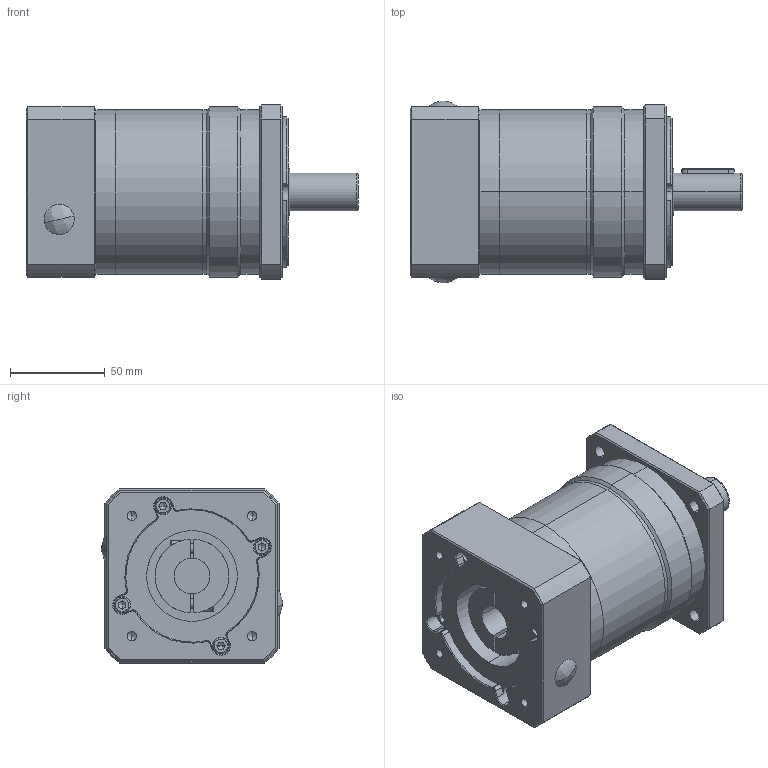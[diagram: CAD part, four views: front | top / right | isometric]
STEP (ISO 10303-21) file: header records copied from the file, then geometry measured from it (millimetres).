
FILE_DESCRIPTION (( 'STEP AP214' ), '1' );
FILE_NAME ('PLF-090-L2-S2-P2 19-70-90-M6.STEP', '2023-08-17T01:47:59', ( '微软用户' ), ( '微软中国' ), 'SwSTEP 2.0', 'SolidWorks 2018', '' );
FILE_SCHEMA (( 'AUTOMOTIVE_DESIGN' ));
Length unit declared in the file: millimetre
Products named in the file (7): hexagon socket head cap screws gb_GB_FASTENER_SCREWS_HSHCS M5X16-N; PLF-090输入端盖-外形70-M6-90; PLF-090黑裔; PLF-090薊粣ん-俋倛19; PLF-090二级齿圈-外形; PLF-090怀堤傷裔-俋倛; PLF-090-L2-S2-P2 19-70-90-M6
Assembly tree (16 placements, depth 2):
  PLF-090-L2-S2-P2 19-70-90-M6
    PLF-090怀堤傷裔-俋倛
    PLF-090二级齿圈-外形
    PLF-090输入端盖-外形70-M6-90
    PLF-090薊粣ん-俋倛19
    hexagon socket head cap screws gb_GB_FASTENER_SCREWS_HSHCS M5X16-N  x10
    PLF-090黑裔  x2
Bounding box: 175.5 x 95.92 x 92 mm (x, y, z)
Volume: 711858.7 mm3; surface area: 122756.5 mm2
Topology: 17 solids, 17 shells, 571 faces, 1355 edges, 825 vertices
Faces by surface type: plane 247, cylinder 183, cone 103, bspline 38
Entity records: 10655 total; most frequent: CARTESIAN_POINT 2472, DIRECTION 1754, ORIENTED_EDGE 1574, EDGE_CURVE 787, AXIS2_PLACEMENT_3D 704, VERTEX_POINT 496, EDGE_LOOP 387, CIRCLE 373
